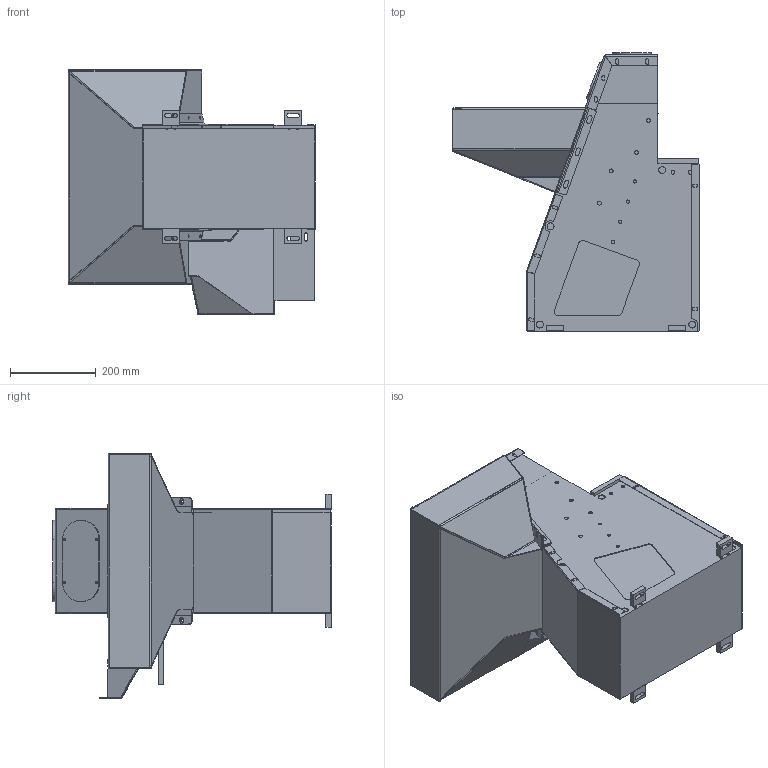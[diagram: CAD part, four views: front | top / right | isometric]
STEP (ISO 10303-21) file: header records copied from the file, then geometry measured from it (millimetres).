
FILE_DESCRIPTION (( 'STEP AP203' ), '1' );
FILE_NAME ('ÍÆ°å»ú ´óºÅ.STEP', '2025-06-26T09:01:56', ( '' ), ( '' ), 'SwSTEP 2.0', 'SolidWorks 2022', '' );
FILE_SCHEMA (( 'CONFIG_CONTROL_DESIGN' ));
Length unit declared in the file: millimetre
Products named in the file (1): 芢啣儂  湮瘍
Bounding box: 578 x 648.5 x 570 mm (x, y, z)
Volume: 41443490 mm3; surface area: 2314641.9 mm2
Topology: 22 solids, 22 shells, 821 faces, 2077 edges, 1311 vertices
Faces by surface type: plane 449, cylinder 336, bspline 20, cone 16
Entity records: 25382 total; most frequent: CARTESIAN_POINT 5002, DIRECTION 4257, ORIENTED_EDGE 4154, EDGE_CURVE 2077, AXIS2_PLACEMENT_3D 1446, LINE 1365, VECTOR 1365, VERTEX_POINT 1311
